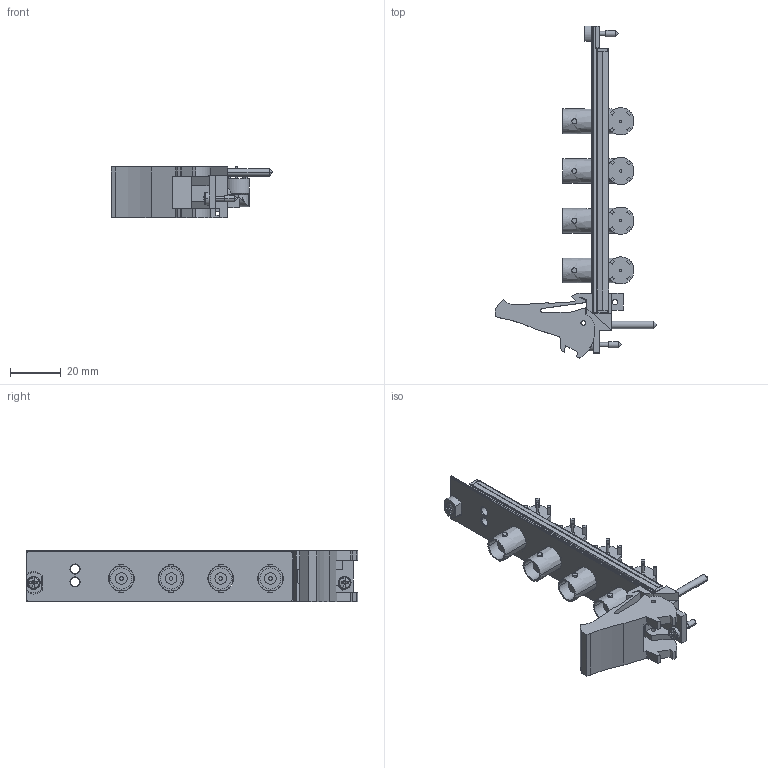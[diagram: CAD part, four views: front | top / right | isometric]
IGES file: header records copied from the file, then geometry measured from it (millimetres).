
Start section:  PTC IGES file: cu_pxi-5406.igs
Global section: file name: cu_pxi-5406.igs; native system: Pro/ENGINEER by Parametric Technology Corporation; preprocessor: 2006080; author: jjorden; organization: Unknown; date: 091023.155949; units: inch
Bounding box: 63.53 x 130.62 x 20.31 mm (x, y, z)
Surface area: 21061.9 mm2 (no closed solid volume)
Topology: 0 solids, 0 shells, 515 faces, 2676 edges, 2672 vertices
Faces by surface type: bspline 298, revolution 217
